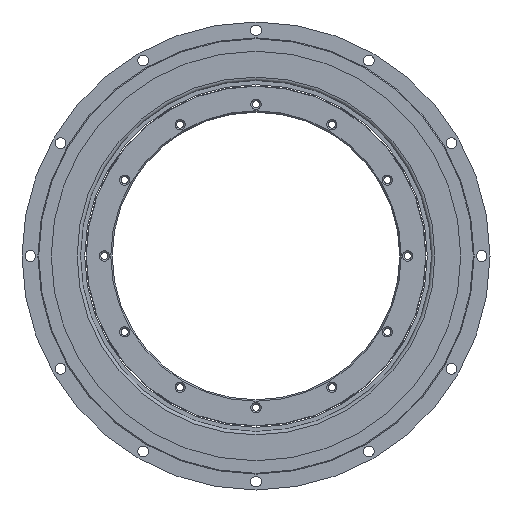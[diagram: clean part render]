
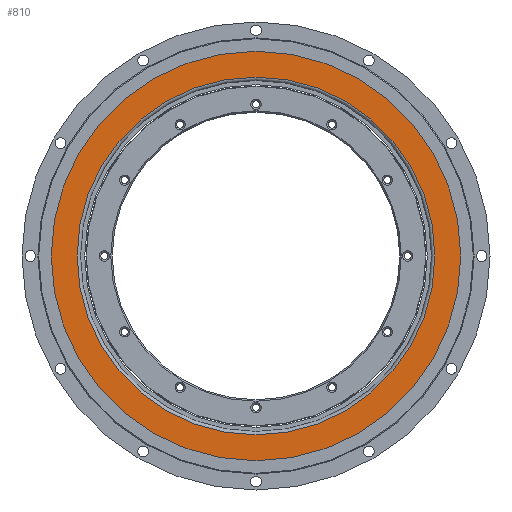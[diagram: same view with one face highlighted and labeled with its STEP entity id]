
A CAD part, front view. The second image highlights one B-rep face of the part: STEP entity #810.
In plain terms, the highlighted planar face has unit normal (0, -1, 0) as drawn and (1, 0, 0) by its records, which use the part's own axes.
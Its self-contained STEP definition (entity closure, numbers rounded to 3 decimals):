
#810=ADVANCED_FACE('',(#1680,#1682),#1684,.T.);
#1680=FACE_BOUND('',#1681,.T.);
#1681=EDGE_LOOP('',(#2021));
#1682=FACE_BOUND('',#1683,.T.);
#1683=EDGE_LOOP('',(#2022));
#1684=PLANE('',#1685);
#1685=AXIS2_PLACEMENT_3D('',#1686,#1687,#1688);
#1686=CARTESIAN_POINT('',(-0.001,0.,0.));
#1687=DIRECTION('',(1.,0.,0.));
#1688=DIRECTION('',(0.,0.,-1.));
#2021=ORIENTED_EDGE('',*,*,#2143,.T.);
#2022=ORIENTED_EDGE('',*,*,#2145,.F.);
#2143=EDGE_CURVE('',#2340,#2340,#2341,.T.);
#2145=EDGE_CURVE('',#2344,#2344,#2345,.F.);
#2340=VERTEX_POINT('',#2824);
#2341=CIRCLE('',#2825,122.5);
#2344=VERTEX_POINT('',#2834);
#2345=CIRCLE('',#2835,107.);
#2824=CARTESIAN_POINT('',(-0.001,0.,-122.5));
#2825=AXIS2_PLACEMENT_3D('',#2826,#2827,#2828);
#2826=CARTESIAN_POINT('',(-0.001,0.,0.));
#2827=DIRECTION('',(1.,0.,0.));
#2828=DIRECTION('',(0.,0.,-1.));
#2834=CARTESIAN_POINT('',(-0.001,0.,107.));
#2835=AXIS2_PLACEMENT_3D('',#2836,#2837,#2838);
#2836=CARTESIAN_POINT('',(-0.001,0.,0.));
#2837=DIRECTION('',(-1.,0.,0.));
#2838=DIRECTION('',(0.,0.,1.));
